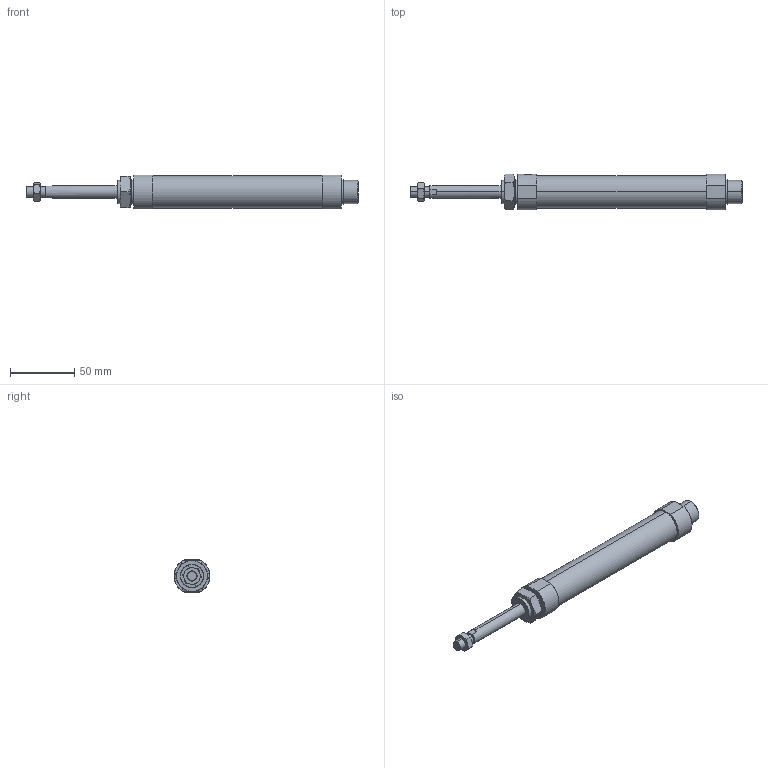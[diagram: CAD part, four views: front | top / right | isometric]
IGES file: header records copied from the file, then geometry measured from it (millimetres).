
Start section: SolidWorks IGES file using analytic representation for surfaces
Global section: file name: C:\Users\Toshiba\Desktop\J#0-20-50-N.IGS; native system: SolidWorks 2014; preprocessor: SolidWorks 2014; author: Toshiba; date: 160308.143009; units: millimetre
Bounding box: 259 x 28 x 26 mm (x, y, z)
Surface area: 20507.1 mm2 (no closed solid volume)
Topology: 0 solids, 0 shells, 89 faces, 1514 edges, 1514 vertices
Faces by surface type: bspline 59, revolution 30
